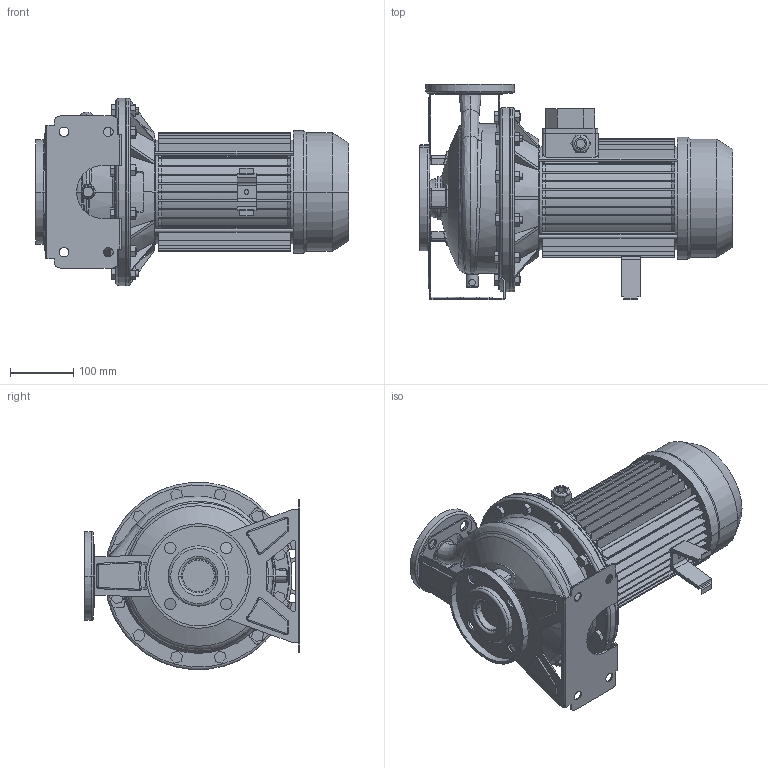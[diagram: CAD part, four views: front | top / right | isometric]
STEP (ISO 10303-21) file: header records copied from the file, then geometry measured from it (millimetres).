
FILE_DESCRIPTION((''),'2;1');
FILE_NAME('3M_32-200_4_IE2_ASM','2011-04-22T',('Utente'),('"Ebara Pumps Europe +39.444.706811"'),'PRO/ENGINEER BY PARAMETRIC TECHNOLOGY CORPORATION, 2009360','PRO/ENGINEER BY PARAMETRIC TECHNOLOGY CORPORATION, 2009360','');
FILE_SCHEMA(('AUTOMOTIVE_DESIGN { 1 0 10303 214 1 1 1 1 }'));
Length unit declared in the file: millimetre
Products named in the file (11): CORPO_32-200; ASP_32-200; FLANGIA_DIN_50; MAND_32-200; FLANGIA_DIN_32; BASE_3M_32-200; CORPO_SALDATO_32-200_ASM; SUPPORTO_3M_230_100; MEC_100X170_IE2; SOSTEGNO_72007; 3M_32-200_4_IE2_ASM
Assembly tree (10 placements, depth 3):
  3M_32-200_4_IE2_ASM
    CORPO_SALDATO_32-200_ASM
      CORPO_32-200
      ASP_32-200
      FLANGIA_DIN_50
      MAND_32-200
      FLANGIA_DIN_32
      BASE_3M_32-200
    SUPPORTO_3M_230_100
    MEC_100X170_IE2
    SOSTEGNO_72007
Bounding box: 494 x 340 x 295.13 mm (x, y, z)
Volume: 10248281.7 mm3; surface area: 1311739.7 mm2
Topology: 12 solids, 12 shells, 1103 faces, 2798 edges, 1787 vertices
Faces by surface type: plane 610, cylinder 304, cone 90, torus 60, bspline 33, sphere 6
Entity records: 42272 total; most frequent: CARTESIAN_POINT 9173, DIRECTION 5696, ORIENTED_EDGE 5596, EDGE_CURVE 2798, AXIS2_PLACEMENT_3D 2045, VERTEX_POINT 1787, VECTOR 1606, LINE 1606
